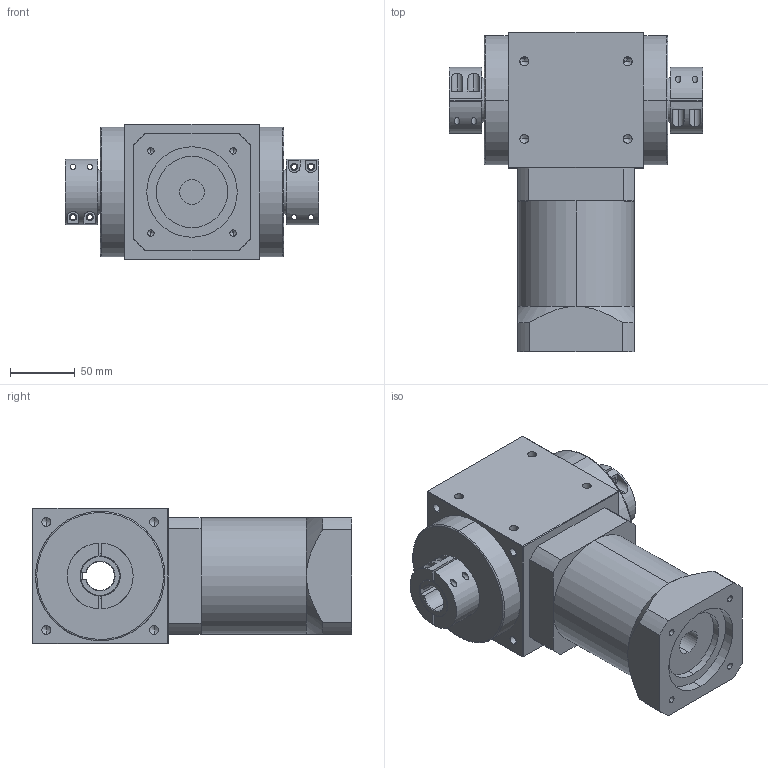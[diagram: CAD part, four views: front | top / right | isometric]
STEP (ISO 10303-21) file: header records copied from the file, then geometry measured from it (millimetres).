
FILE_DESCRIPTION (( 'STEP AP214' ), '1' );
FILE_NAME ('PAW105A-L2-2C-K(12-100) 19-70-90-M6.STEP', '2021-04-24T08:04:50', ( 'Microsoft' ), ( 'Microsoft China' ), 'SwSTEP 2.0', 'SolidWorks 2016', '' );
FILE_SCHEMA (( 'AUTOMOTIVE_DESIGN' ));
Length unit declared in the file: millimetre
Products named in the file (3): PAW105A-L2-2C-K(12-100) 19-70-90-M6; PAW105A-L1-2C-K--22-110-145-m8_1; 105標杶_1
Assembly tree (3 placements, depth 2):
  PAW105A-L2-2C-K(12-100) 19-70-90-M6
    PAW105A-L1-2C-K--22-110-145-m8_1
    105標杶_1  x2
Bounding box: 196 x 247 x 105 mm (x, y, z)
Volume: 2387911.3 mm3; surface area: 194551.8 mm2
Topology: 6 solids, 6 shells, 294 faces, 720 edges, 424 vertices
Faces by surface type: cylinder 137, plane 93, cone 60, bspline 4
Entity records: 10210 total; most frequent: CARTESIAN_POINT 1772, DIRECTION 1224, ORIENTED_EDGE 1104, EDGE_CURVE 552, AXIS2_PLACEMENT_3D 476, VERTEX_POINT 344, EDGE_LOOP 302, VECTOR 272
